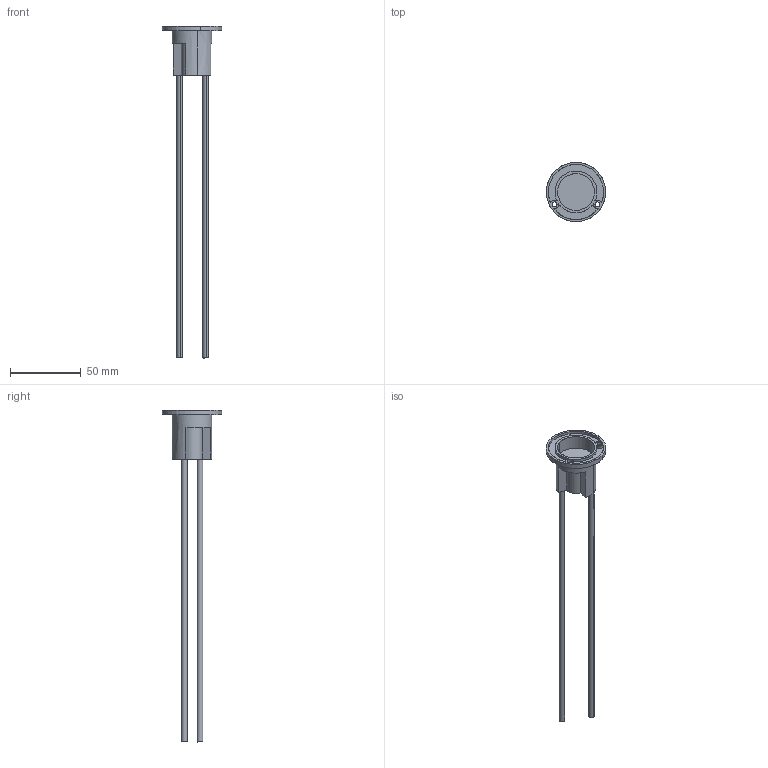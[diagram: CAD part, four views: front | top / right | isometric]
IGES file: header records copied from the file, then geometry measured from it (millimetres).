
Start section: SolidWorks IGES file using analytic representation for surfaces
Global section: file name: C:\Users\Toshiba\Desktop\FR-30PRN.IGS; native system: SolidWorks 2014; preprocessor: SolidWorks 2014; author: Toshiba; date: 160621.094925; units: metre
Bounding box: 42 x 42 x 234.7 mm (x, y, z)
Surface area: 12429.2 mm2 (no closed solid volume)
Topology: 0 solids, 0 shells, 43 faces, 1028 edges, 1028 vertices
Faces by surface type: revolution 29, bspline 14
